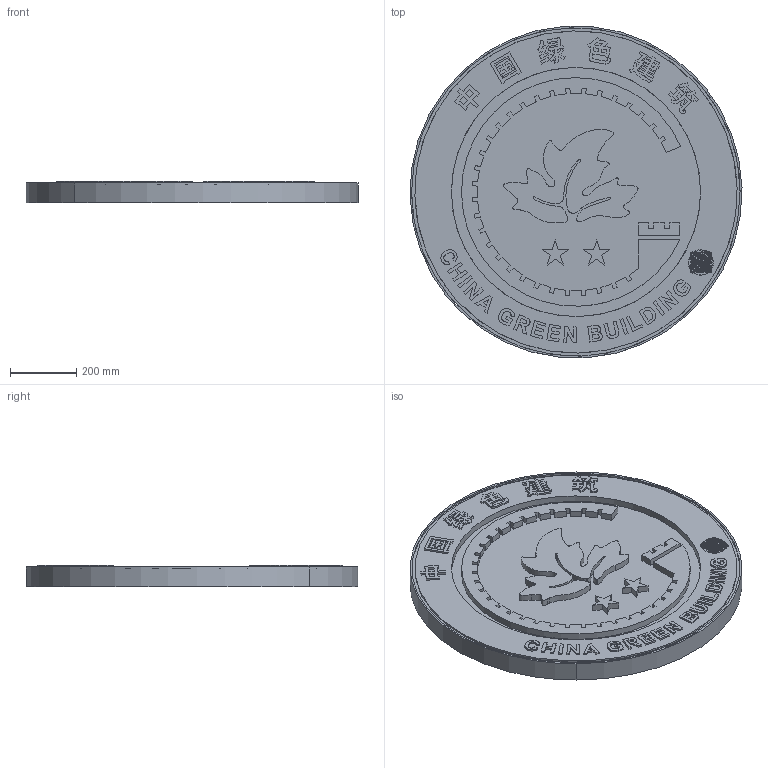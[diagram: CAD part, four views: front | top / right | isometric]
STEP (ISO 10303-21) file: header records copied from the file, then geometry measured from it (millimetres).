
FILE_DESCRIPTION(/* description */ (''),/* implementation_level */ '2;1');
FILE_NAME(/* name */ '二星（~3',/* time_stamp */ '2021-05-12T10:48:24+08:00',/* author */ (''),/* organization */ (''),/* preprocessor_version */ 'ST-DEVELOPER v15',/* originating_system */ '',/* authorisation */ '');
FILE_SCHEMA (('AUTOMOTIVE_DESIGN'));
Length unit declared in the file: millimetre
Products named in the file (1): Document
Bounding box: 999.59 x 997.77 x 65.5 mm (x, y, z)
Volume: 41061631.5 mm3; surface area: 3269220 mm2
Topology: 292 solids, 292 shells, 2266 faces, 5046 edges, 3364 vertices
Faces by surface type: bspline 1463, plane 803
Entity records: 80445 total; most frequent: CARTESIAN_POINT 45245, ORIENTED_EDGE 10092, EDGE_CURVE 5046, B_SPLINE_CURVE_WITH_KNOTS 5046, VERTEX_POINT 3364, EDGE_LOOP 2308, ADVANCED_FACE 2266, FACE_OUTER_BOUND 2266
